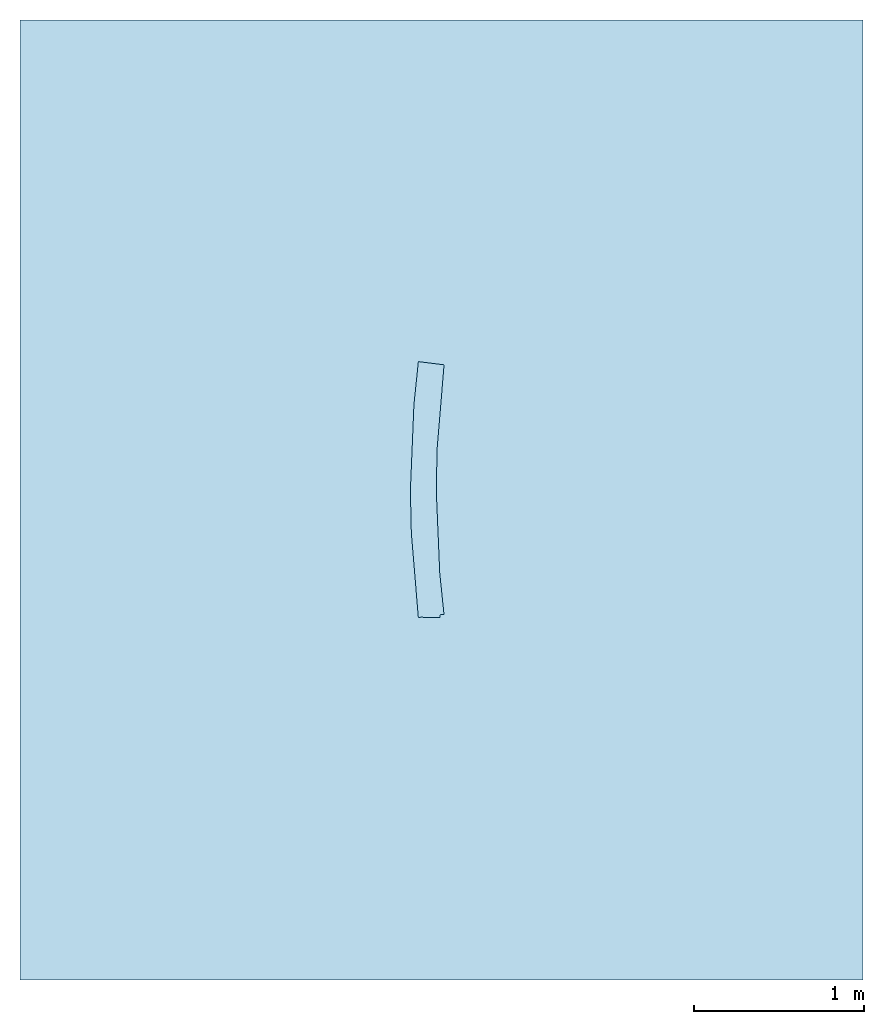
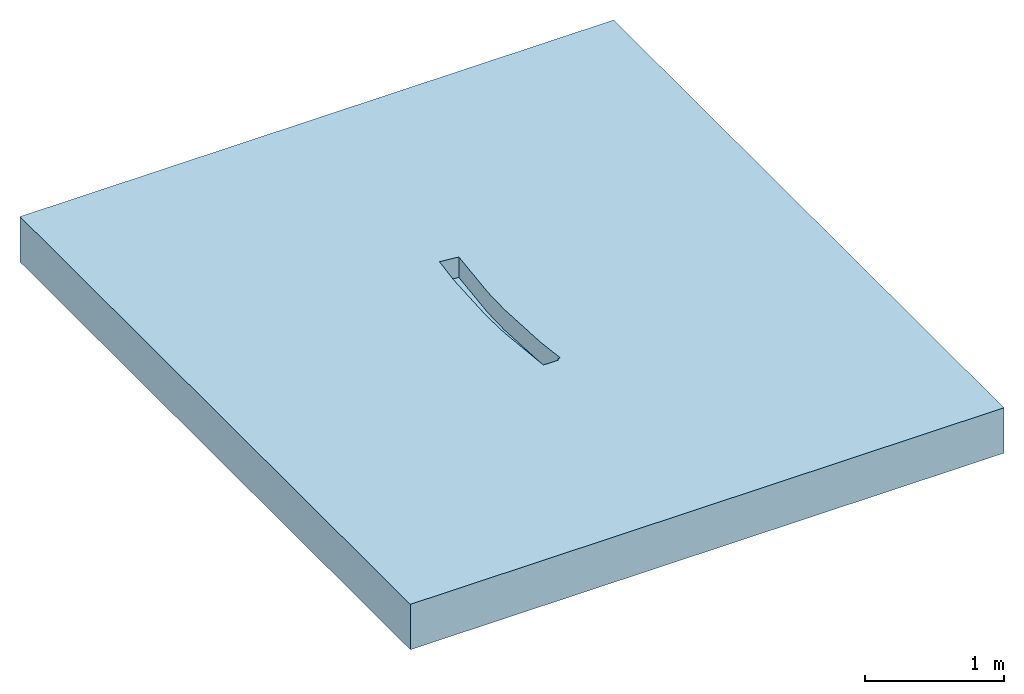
# One storey: 1 slab, 7 openings.
"""IFC2X3 building model written with IfcOpenShell, lengths in millimetres."""

from ifc_helpers import new_model, entity, si_unit, converted_unit, direction, frame, frame_2d, origin, place, context, subcontext, project, spatial, polyline, circle_curve, parameter, trimmed, segment, composite_curve, rectangle, outline, extrude, material, layer, layer_set, layer_usage, element, save


model = new_model("IFC2X3")

# Units and contexts
model_context = context("Model", 3, precision=1e-06, world=origin(), true_north=direction((2.0, 6.12303176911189e-17, 1.0)))
context_of_model = context(None, 3, precision=1e-06, world=origin(), true_north=direction((2.0, 6.12303176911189e-17, 1.0)))
body_context = subcontext(model_context, "Body", "Model", "MODEL_VIEW")
ifc_project = project(units=[si_unit("LENGTHUNIT", "METRE", prefix="MILLI"), si_unit("AREAUNIT", "SQUARE_METRE", prefix="MILLI"), si_unit("VOLUMEUNIT", "CUBIC_METRE", prefix="MILLI"), converted_unit("PLANEANGLEUNIT", "DEGREE", entity("IfcRatioMeasure", 0.0174532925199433), si_unit("PLANEANGLEUNIT", "RADIAN"), dimensions=[0, 0, 0, 0, 0, 0, 0]), si_unit("TIMEUNIT", "SECOND")], contexts=[model_context, context_of_model])

# Site, building, storey
site_placement = place(None, origin())
site = spatial("IfcSite", under=ifc_project, at=site_placement, Name="Default", CompositionType="ELEMENT")
building_placement = place(site_placement, origin())
building = spatial("IfcBuilding", under=site, at=building_placement, CompositionType="ELEMENT")
storey_placement = place(building_placement, origin())
storey = spatial("IfcBuildingStorey", under=building, at=storey_placement, Name="Level 1", CompositionType="ELEMENT", Elevation=0.0)

# Slab, openings
ifc_material = material(Name="Default Floor")
ifc_layer = layer(ifc_material, 400.0)
ifc_layer_set = layer_set([ifc_layer], Name="Floor:Generic Floor - 400mm")
ifc_layer_usage = layer_usage(ifc_layer_set, "AXIS3", "POSITIVE", 0.0)
slab_placement = place(storey_placement, frame((-6426.51252910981, -8304.1683846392, -400.0)))
slab = element("IfcSlab", 1, at=slab_placement, inside=storey, material=ifc_layer_usage, Name="Floor:Generic Floor - 400mm", ObjectType="Floor:Generic Floor - 400mm", PredefinedType="FLOOR", context=body_context, shape_type="SweptSolid", body=[
    extrude(rectangle(XDim=5632.29114211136, YDim=4946.28644627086, at=frame_2d((0.0, 0.0), x_axis=(0.0, -1.0))), frame((2473.14322313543, 2816.14557105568, 400.0), z_axis=(0.0, 0.0, -1.0), x_axis=(-1.0, 0.0, 0.0)), (0.0, 0.0, 1.0), 400.0),
])
opening_1_placement = place(slab_placement, origin())
element("IfcOpeningElement", 2, at=opening_1_placement, cuts=slab, ObjectType="Recess", context=body_context, shape_type="SweptSolid", body=[
    extrude(outline(polyline([(-212.533349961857, -102.255630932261), (37.1805835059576, -102.255630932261), (535.578997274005, -71.8610846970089), (532.628984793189, -43.346988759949), (535.859692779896, -43.4174077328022), (538.038851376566, 56.558845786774), (522.257334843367, 56.9028317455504), (519.972857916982, 78.9840245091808), (277.709911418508, 59.3162083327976), (-208.204861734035, 49.4844384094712), (-454.064578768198, 60.0247240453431), (-943.457811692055, 111.286693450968), (-965.512954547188, -39.0322484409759), (-715.453657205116, -70.3887747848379), (-212.533349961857, -102.255630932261)])), frame((2397.25533877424, 2663.51450686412, 220.0), z_axis=(0.0, 0.0, 1.0), x_axis=(0.0217915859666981, -0.999762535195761, 0.0)), (0.0, 0.0, 1.0), 180.0),
])
opening_2_placement = place(slab_placement, origin())
element("IfcOpeningElement", 3, at=opening_2_placement, cuts=slab, ObjectType="Recess", context=body_context, shape_type="SweptSolid", body=[
    extrude(outline(composite_curve([segment(polyline([(-203.334382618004, -101.667191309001), (101.667191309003, -101.667191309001)]), True, "CONTINUOUS"), segment(polyline([(101.667191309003, -101.667191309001), (101.667191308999, 203.334382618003)]), True, "CONTINUOUS"), segment(trimmed(circle_curve(frame_2d((101.667191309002, -101.667191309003), x_axis=(0.0, -1.0)), 305.001573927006), [parameter(180.0)], [parameter(270.0)], True, "PARAMETER"), True, "CONTINUOUS")], self_intersect=False)), frame((2364.69423813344, 2228.51570532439, -2220.0), z_axis=(0.0, 0.0, 1.0), x_axis=(0.0, -1.0, 0.0)), (0.0, 0.0, 1.0), 19.2999999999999),
])
opening_3_placement = place(slab_placement, origin())
element("IfcOpeningElement", 4, at=opening_3_placement, cuts=slab, ObjectType="Recess", context=body_context, shape_type="SweptSolid", body=[
    extrude(outline(composite_curve([segment(polyline([(-241.75000000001, -74.9390970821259), (241.749999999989, -74.9390970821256)]), True, "CONTINUOUS"), segment(polyline([(241.749999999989, -74.9390970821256), (247.79374999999, 74.9390970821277)]), True, "CONTINUOUS"), segment(trimmed(circle_curve(frame_2d((0.0, -6070.06686365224), x_axis=(0.0, 1.0)), 6150.0), [parameter(357.690832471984)], [parameter(2.30916752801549)], True, "PARAMETER"), True, "CONTINUOUS"), segment(polyline([(-247.79375000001, 74.939097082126), (-241.75000000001, -74.9390970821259)]), True, "CONTINUOUS")], self_intersect=False)), frame((2412.96900980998, 2368.59858677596, -5605.0), z_axis=(0.0, 0.0, 1.0), x_axis=(0.0, -1.0, 0.0)), (0.0, 0.0, 1.0), 4.99999999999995),
])
opening_4_placement = place(slab_placement, origin())
element("IfcOpeningElement", 5, at=opening_4_placement, cuts=slab, ObjectType="Recess", context=body_context, shape_type="SweptSolid", body=[
    extrude(outline(composite_curve([segment(polyline([(-241.54885459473, -74.9381948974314), (241.548854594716, -74.9381948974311)]), True, "CONTINUOUS"), segment(polyline([(241.548854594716, -74.9381948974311), (247.592531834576, 74.9381948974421)]), True, "CONTINUOUS"), segment(trimmed(circle_curve(frame_2d((0.0, -6065.07778192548), x_axis=(0.0, 1.0)), 6145.00596073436), [parameter(357.690832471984)], [parameter(2.30916752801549)], True, "PARAMETER"), True, "CONTINUOUS"), segment(polyline([(-247.592531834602, 74.9381948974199), (-241.54885459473, -74.9381948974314)]), True, "CONTINUOUS")], self_intersect=False)), frame((2413.03048175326, 2374.42845956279, -4105.0), z_axis=(0.0, 0.0, 1.0), x_axis=(0.0, -1.0, 0.0)), (0.0, 0.0, 1.0), 4.99999999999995),
])
opening_5_placement = place(slab_placement, origin())
element("IfcOpeningElement", 6, at=opening_5_placement, cuts=slab, ObjectType="Recess", context=body_context, shape_type="SweptSolid", body=[
    extrude(outline(composite_curve([segment(polyline([(-215.49776955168, -74.4605683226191), (215.497769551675, -74.4605683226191)]), True, "CONTINUOUS"), segment(polyline([(215.497769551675, -74.4605683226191), (233.455917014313, 74.460568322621)]), True, "CONTINUOUS"), segment(trimmed(circle_curve(frame_2d((0.0, -1861.5142080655), x_axis=(0.0, 1.0)), 1950.0), [parameter(353.124)], [parameter(6.876)], True, "PARAMETER"), True, "CONTINUOUS"), segment(polyline([(-233.455917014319, 74.4605683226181), (-215.49776955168, -74.4605683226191)]), True, "CONTINUOUS")], self_intersect=False)), frame((2410.05674518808, 2360.29426106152, -4405.0), z_axis=(0.0, 0.0, 1.0), x_axis=(0.0, -1.0, 0.0)), (0.0, 0.0, 1.0), 4.99999999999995),
])
opening_6_placement = place(slab_placement, origin())
element("IfcOpeningElement", 7, at=opening_6_placement, cuts=slab, ObjectType="Recess", context=body_context, shape_type="SweptSolid", body=[
    extrude(outline(polyline([(-64.3879085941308, -246.518654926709), (85.752858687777, -246.518654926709), (64.1065060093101, 253.01256073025), (-85.4714561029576, 240.02474912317), (-64.3879085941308, -246.518654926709)])), frame((2415.52547370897, 2376.83592772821, -7700.0), z_axis=(0.0, 0.0, 1.0), x_axis=(0.999062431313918, -0.0432927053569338, 0.0)), (0.0, 0.0, 1.0), 4.99999999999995),
])
opening_7_placement = place(slab_placement, origin())
element("IfcOpeningElement", 8, at=opening_7_placement, cuts=slab, ObjectType="Recess", context=body_context, shape_type="SweptSolid", body=[
    extrude(outline(polyline([(272.202200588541, -95.5390299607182), (521.683473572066, -95.5390299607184), (1019.62012351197, -65.197585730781), (1004.17745936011, 84.0055760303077), (761.738883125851, 64.2965097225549), (275.468102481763, 54.425051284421), (59.1788935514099, 63.1504408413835), (-156.649754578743, 79.6709528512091), (-155.978519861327, 111.966971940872), (-458.913098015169, 118.263110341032), (-458.958799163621, 116.064229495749), (-459.28512945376, 116.111951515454), (-459.611447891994, 116.159690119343), (-481.386446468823, -32.2573193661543), (-395.505718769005, -44.2061420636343), (-309.479906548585, -54.941338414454), (-312.242271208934, -187.850706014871), (-162.274658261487, -190.967606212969), (-159.774989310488, -70.6976707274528), (55.9916033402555, -86.9180556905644), (272.202200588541, -95.5390299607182)])), frame((2449.22714058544, 2590.10736887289, -2610.0), z_axis=(0.0, 0.0, 1.0), x_axis=(-0.0207793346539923, 0.999784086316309, 0.0)), (0.0, 0.0, 1.0), 9.99999999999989),
])

save(model, "model.ifc")
